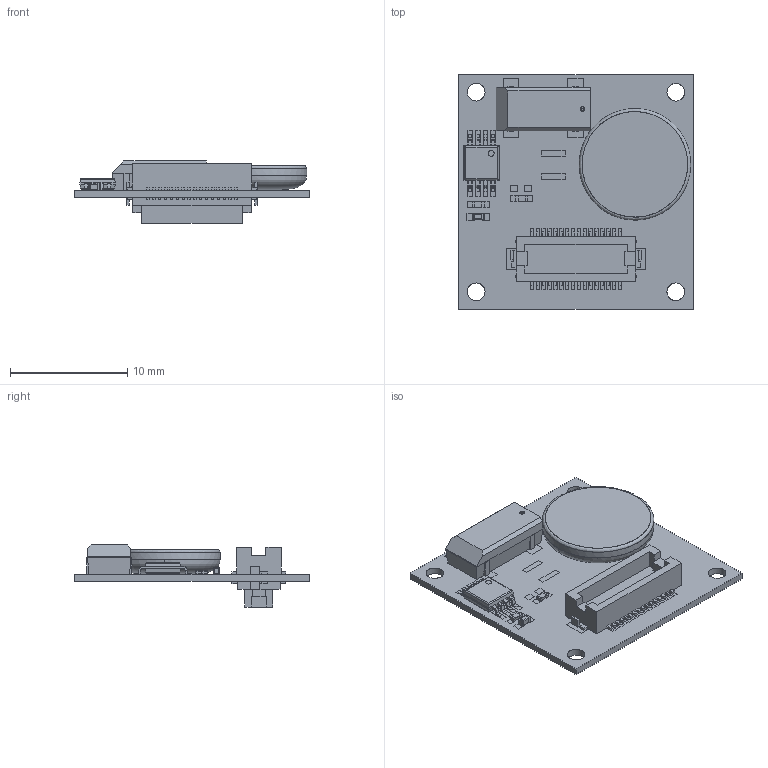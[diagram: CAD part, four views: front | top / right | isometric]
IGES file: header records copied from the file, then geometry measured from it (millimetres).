
Global section: file name: Filename.iges; native system: Open CASCADE 7.4; preprocessor: Open CASCADE IGES processor 7.4; date: 20200720.231227; units: millimetre
Bounding box: 20 x 20 x 5.3 mm (x, y, z)
Surface area: 3086.8 mm2 (no closed solid volume)
Topology: 0 solids, 0 shells, 2328 faces, 10892 edges, 11706 vertices
Faces by surface type: plane 2160, revolution 168
